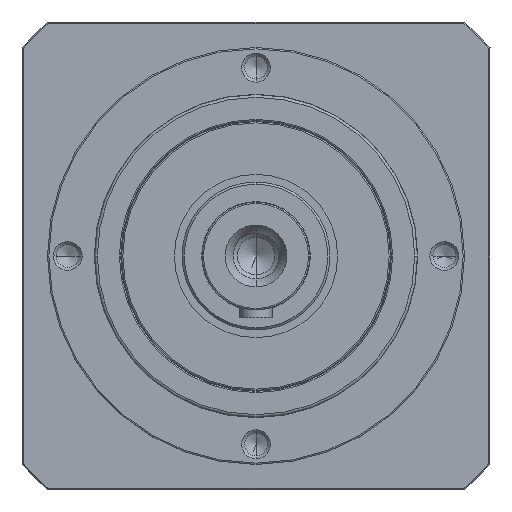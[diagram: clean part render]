
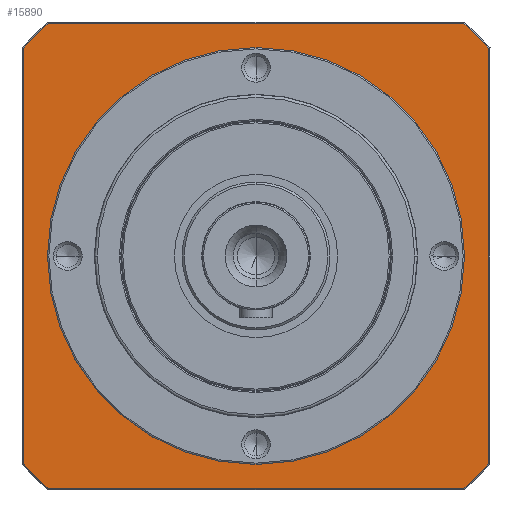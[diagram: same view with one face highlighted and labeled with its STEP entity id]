
A CAD part, left-side view. The second image highlights one B-rep face of the part: STEP entity #15890.
In plain terms, the highlighted planar face has unit normal (-1, 0, 0) as drawn and (0, 0, -1) by its records, which use the part's own axes.
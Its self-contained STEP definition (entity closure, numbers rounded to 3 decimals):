
#14776=CARTESIAN_POINT('',(0.,0.,
2.5));
#14777=DIRECTION('',(0.,0.,-1.));
#14778=DIRECTION('',(0.,-1.,0.));
#14779=AXIS2_PLACEMENT_3D('',#14776,#14777,#14778);
#14781=CARTESIAN_POINT('',(0.,0.,
2.5));
#14782=DIRECTION('',(0.,0.,-1.));
#14783=DIRECTION('',(0.,1.,0.));
#14784=AXIS2_PLACEMENT_3D('',#14781,#14782,#14783);
#14786=CARTESIAN_POINT('',(0.,0.,2.5));
#14787=DIRECTION('',(0.,0.,1.));
#14788=DIRECTION('',(-0.746,-0.666,0.));
#14789=AXIS2_PLACEMENT_3D('',#14786,#14787,#14788);
#14791=DIRECTION('',(1.,0.,0.));
#14792=VECTOR('',#14791,154.58);
#14793=CARTESIAN_POINT('',(-77.29,-86.5,
2.5));
#14794=LINE('',#14793,#14792);
#14795=CARTESIAN_POINT('',(0.,0.,2.5));
#14796=DIRECTION('',(0.,0.,1.));
#14797=DIRECTION('',(0.666,-0.746,0.));
#14798=AXIS2_PLACEMENT_3D('',#14795,#14796,#14797);
#14800=DIRECTION('',(0.,1.,0.));
#14801=VECTOR('',#14800,154.58);
#14802=CARTESIAN_POINT('',(86.5,-77.29,
2.5));
#14803=LINE('',#14802,#14801);
#14804=CARTESIAN_POINT('',(0.,0.,2.5));
#14805=DIRECTION('',(0.,0.,1.));
#14806=DIRECTION('',(0.746,0.666,0.));
#14807=AXIS2_PLACEMENT_3D('',#14804,#14805,#14806);
#14809=DIRECTION('',(-1.,0.,0.));
#14810=VECTOR('',#14809,154.58);
#14811=CARTESIAN_POINT('',(77.29,86.5,2.5));
#14812=LINE('',#14811,#14810);
#14813=CARTESIAN_POINT('',(0.,0.,2.5));
#14814=DIRECTION('',(0.,0.,1.));
#14815=DIRECTION('',(-0.666,0.746,0.));
#14816=AXIS2_PLACEMENT_3D('',#14813,#14814,#14815);
#14818=DIRECTION('',(0.,-1.,0.));
#14819=VECTOR('',#14818,154.58);
#14820=CARTESIAN_POINT('',(-86.5,77.29,
2.5));
#14821=LINE('',#14820,#14819);
#15539=CARTESIAN_POINT('',(0.,-69.5,2.5));
#15540=CARTESIAN_POINT('',(0.,69.5,
2.5));
#15541=VERTEX_POINT('',#15539);
#15542=VERTEX_POINT('',#15540);
#15643=CARTESIAN_POINT('',(-86.5,-77.29,2.5));
#15644=CARTESIAN_POINT('',(-77.29,-86.5,2.5));
#15645=VERTEX_POINT('',#15643);
#15646=VERTEX_POINT('',#15644);
#15651=CARTESIAN_POINT('',(77.29,-86.5,
2.5));
#15652=VERTEX_POINT('',#15651);
#15655=CARTESIAN_POINT('',(86.5,-77.29,2.5));
#15656=VERTEX_POINT('',#15655);
#15659=CARTESIAN_POINT('',(86.5,77.29,2.5));
#15660=VERTEX_POINT('',#15659);
#15663=CARTESIAN_POINT('',(77.29,86.5,2.5));
#15664=VERTEX_POINT('',#15663);
#15667=CARTESIAN_POINT('',(-77.29,86.5,
2.5));
#15668=VERTEX_POINT('',#15667);
#15673=CARTESIAN_POINT('',(-86.5,77.29,2.5));
#15674=VERTEX_POINT('',#15673);
#15862=CARTESIAN_POINT('',(0.,0.,2.5));
#15863=DIRECTION('',(0.,0.,1.));
#15864=DIRECTION('',(0.,1.,0.));
#15865=AXIS2_PLACEMENT_3D('',#15862,#15863,#15864);
#15866=PLANE('',#15865);
#15868=ORIENTED_EDGE('',*,*,#15867,.T.);
#15870=ORIENTED_EDGE('',*,*,#15869,.T.);
#15872=ORIENTED_EDGE('',*,*,#15871,.T.);
#15874=ORIENTED_EDGE('',*,*,#15873,.T.);
#15876=ORIENTED_EDGE('',*,*,#15875,.T.);
#15878=ORIENTED_EDGE('',*,*,#15877,.T.);
#15880=ORIENTED_EDGE('',*,*,#15879,.T.);
#15882=ORIENTED_EDGE('',*,*,#15881,.T.);
#15883=EDGE_LOOP('',(#15868,#15870,#15872,#15874,#15876,#15878,#15880,#15882));
#15884=FACE_OUTER_BOUND('',#15883,.F.);
#15886=ORIENTED_EDGE('',*,*,#15885,.T.);
#15887=ORIENTED_EDGE('',*,*,#15852,.T.);
#15888=EDGE_LOOP('',(#15886,#15887));
#15889=FACE_BOUND('',#15888,.F.);
#15890=ADVANCED_FACE('',(#15884,#15889),#15866,.F.);
#14780=CIRCLE('',#14779,69.5);
#14785=CIRCLE('',#14784,69.5);
#14790=CIRCLE('',#14789,116.);
#14799=CIRCLE('',#14798,116.);
#14808=CIRCLE('',#14807,116.);
#14817=CIRCLE('',#14816,116.);
#15852=EDGE_CURVE('',#15542,#15541,#14785,.T.);
#15867=EDGE_CURVE('',#15645,#15646,#14790,.T.);
#15869=EDGE_CURVE('',#15646,#15652,#14794,.T.);
#15871=EDGE_CURVE('',#15652,#15656,#14799,.T.);
#15873=EDGE_CURVE('',#15656,#15660,#14803,.T.);
#15875=EDGE_CURVE('',#15660,#15664,#14808,.T.);
#15877=EDGE_CURVE('',#15664,#15668,#14812,.T.);
#15879=EDGE_CURVE('',#15668,#15674,#14817,.T.);
#15881=EDGE_CURVE('',#15674,#15645,#14821,.T.);
#15885=EDGE_CURVE('',#15541,#15542,#14780,.T.);
